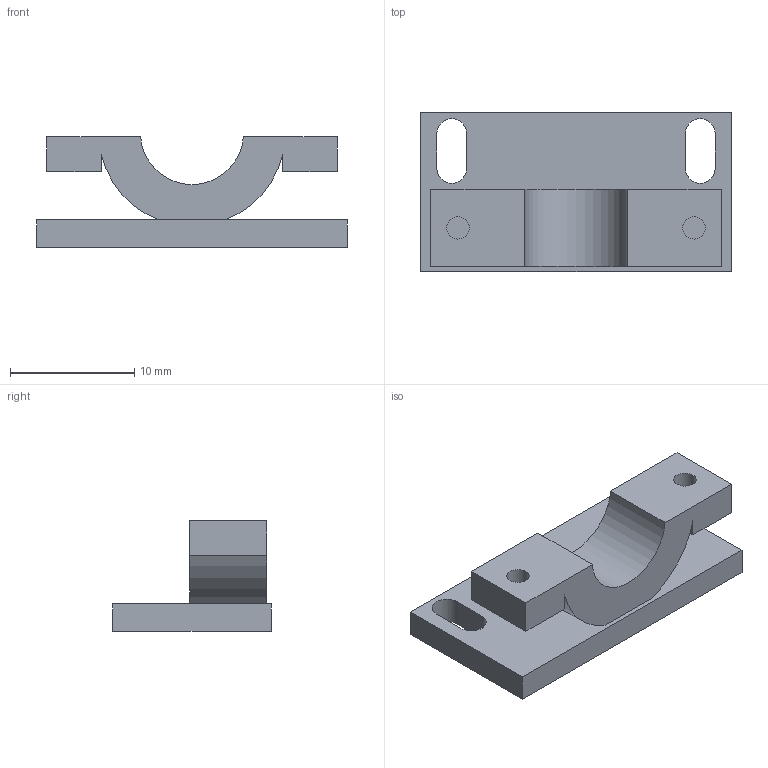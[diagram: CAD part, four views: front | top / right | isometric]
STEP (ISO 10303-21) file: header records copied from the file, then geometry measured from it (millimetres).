
FILE_DESCRIPTION(('Open CASCADE Model'),'2;1');
FILE_NAME('Open CASCADE Shape Model','2026-10-20T15:14:23',('Author'),( 'Open CASCADE'),'Open CASCADE STEP processor 7.8','Open CASCADE 7.8' ,'Unknown');
FILE_SCHEMA(('AUTOMOTIVE_DESIGN { 1 0 10303 214 1 1 1 1 }'));
Length unit declared in the file: millimetre
Products named in the file (1): Open CASCADE STEP translator 7.8 17
Bounding box: 25 x 12.8 x 8.9 mm (x, y, z)
Volume: 1147.3 mm3; surface area: 1338.5 mm2
Topology: 1 solids, 1 shells, 29 faces, 78 edges, 52 vertices
Faces by surface type: plane 20, cylinder 9
Full cylindrical faces by diameter (mm): 1.8 x2
Entity records: 1962 total; most frequent: CARTESIAN_POINT 412, DIRECTION 276, LINE 174, VECTOR 174, ORIENTED_EDGE 156, PCURVE 156, DEFINITIONAL_REPRESENTATION 156, EDGE_CURVE 78
